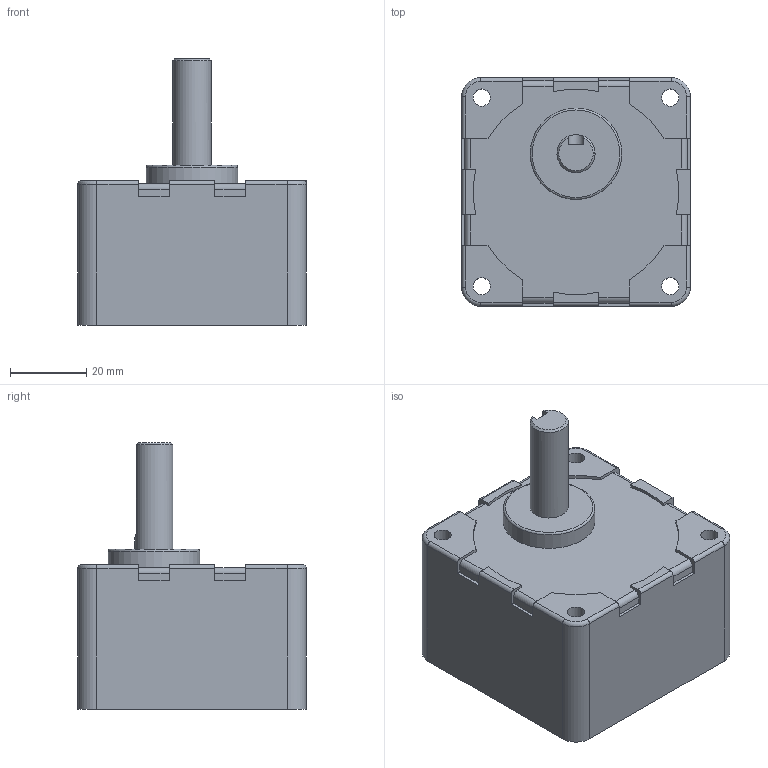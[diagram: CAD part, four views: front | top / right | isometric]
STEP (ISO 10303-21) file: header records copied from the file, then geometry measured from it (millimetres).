
FILE_DESCRIPTION(/* description */ (''),/* implementation_level */ '2;1');
FILE_NAME(/* name */ 'E:\도면작업\2016\0704) 미주향 SG 도면\3D GEAR HEAD\SG6KA30~120.stp',/* time_stamp */ '2016-07-22T14:01:04+09:00',/* author */ ('jy-jung'),/* organization */ (''),/* preprocessor_version */ 'ST-DEVELOPER v15.6',/* originating_system */ 'Autodesk Inventor 2015',/* authorisation */ '');
FILE_SCHEMA (('AUTOMOTIVE_DESIGN { 1 0 10303 214 3 1 1 }'));
Length unit declared in the file: millimetre
Products named in the file (1): SG6KA30~120
Bounding box: 60 x 60 x 70 mm (x, y, z)
Volume: 129648.5 mm3; surface area: 19918.8 mm2
Topology: 1 solids, 1 shells, 101 faces, 276 edges, 181 vertices
Faces by surface type: plane 53, cylinder 40, torus 5, cone 3
Full cylindrical faces by diameter (mm): 4.5 x4, 5.7 x1, 10 x1, 24 x1, 54 x1
Entity records: 3184 total; most frequent: CARTESIAN_POINT 566, DIRECTION 550, ORIENTED_EDGE 526, EDGE_CURVE 263, AXIS2_PLACEMENT_3D 189, VERTEX_POINT 179, LINE 172, VECTOR 172
